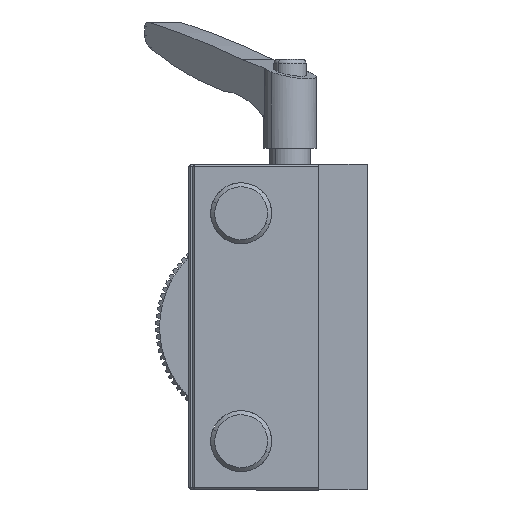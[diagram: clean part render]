
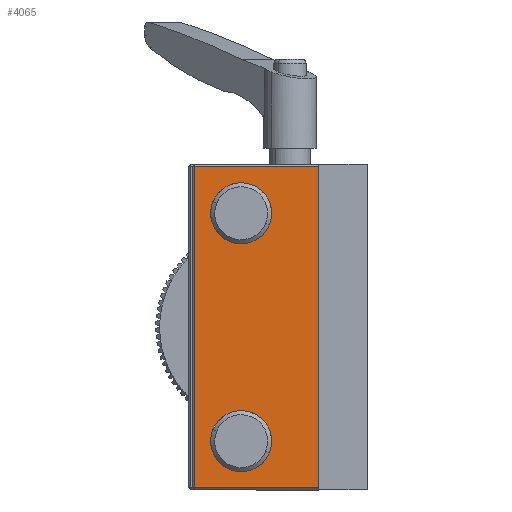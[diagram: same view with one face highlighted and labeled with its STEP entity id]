
A CAD part, left-side view. The second image highlights one B-rep face of the part: STEP entity #4065.
In plain terms, the highlighted planar face has unit normal (-1, 0, 0) as drawn and (0, 1, 0) by its records, which use the part's own axes.
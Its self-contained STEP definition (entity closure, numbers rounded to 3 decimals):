
#54 = VECTOR ( 'NONE', #14326, 1000. ) ;
#466 = AXIS2_PLACEMENT_3D ( 'NONE', #27640, #14416, #1186 ) ;
#862 = DIRECTION ( 'NONE',  ( 1., 0., 0. ) ) ;
#1071 = AXIS2_PLACEMENT_3D ( 'NONE', #21946, #8720, #24172 ) ;
#1186 = DIRECTION ( 'NONE',  ( 0., 0., 1. ) ) ;
#1552 = CIRCLE ( 'NONE', #466, 7.5 ) ;
#1697 = EDGE_CURVE ( 'NONE', #17717, #22943, #22184, .T. ) ;
#1748 = EDGE_LOOP ( 'NONE', ( #3451, #9469 ) ) ;
#1885 = DIRECTION ( 'NONE',  ( 0., 1., 0. ) ) ;
#2678 = CIRCLE ( 'NONE', #21205, 7.5 ) ;
#2783 = CARTESIAN_POINT ( 'NONE',  ( -28., 20., -4. ) ) ;
#3381 = CARTESIAN_POINT ( 'NONE',  ( -28., 20., 11. ) ) ;
#3451 = ORIENTED_EDGE ( 'NONE', *, *, #16008, .F. ) ;
#3814 = AXIS2_PLACEMENT_3D ( 'NONE', #22262, #24481, #11283 ) ;
#4065 = ADVANCED_FACE ( 'NONE', ( #8251, #4451, #25867 ), #6819, .T. ) ;
#4098 = ORIENTED_EDGE ( 'NONE', *, *, #14153, .F. ) ;
#4451 = FACE_BOUND ( 'NONE', #17967, .T. ) ;
#4594 = DIRECTION ( 'NONE',  ( 0., 0., 1. ) ) ;
#5362 = CARTESIAN_POINT ( 'NONE',  ( 28., 20., -4. ) ) ;
#5400 = ORIENTED_EDGE ( 'NONE', *, *, #21420, .T. ) ;
#5615 = DIRECTION ( 'NONE',  ( 0., 0., 1. ) ) ;
#6819 = PLANE ( 'NONE',  #3814 ) ;
#6948 = VERTEX_POINT ( 'NONE', #25490 ) ;
#7960 = VERTEX_POINT ( 'NONE', #11874 ) ;
#8251 = FACE_BOUND ( 'NONE', #1748, .T. ) ;
#8304 = CARTESIAN_POINT ( 'NONE',  ( 28., 20., 3.5 ) ) ;
#8357 = VECTOR ( 'NONE', #862, 1000. ) ;
#8720 = DIRECTION ( 'NONE',  ( 0., 1., 0. ) ) ;
#9469 = ORIENTED_EDGE ( 'NONE', *, *, #12879, .F. ) ;
#9692 = EDGE_LOOP ( 'NONE', ( #26869, #12488, #5400, #21804 ) ) ;
#9910 = ORIENTED_EDGE ( 'NONE', *, *, #1697, .F. ) ;
#10072 = CARTESIAN_POINT ( 'NONE',  ( -39.5, 20., 15.5 ) ) ;
#10314 = LINE ( 'NONE', #10072, #26517 ) ;
#10515 = EDGE_CURVE ( 'NONE', #28134, #14281, #10314, .T. ) ;
#10538 = DIRECTION ( 'NONE',  ( 0., 0., 1. ) ) ;
#11283 = DIRECTION ( 'NONE',  ( 0., 0., 1. ) ) ;
#11874 = CARTESIAN_POINT ( 'NONE',  ( 28., 20., 11. ) ) ;
#12488 = ORIENTED_EDGE ( 'NONE', *, *, #27114, .T. ) ;
#12879 = EDGE_CURVE ( 'NONE', #18750, #7960, #1552, .T. ) ;
#13497 = CIRCLE ( 'NONE', #1071, 7.5 ) ;
#14153 = EDGE_CURVE ( 'NONE', #22943, #17717, #13497, .T. ) ;
#14229 = LINE ( 'NONE', #16301, #8357 ) ;
#14281 = VERTEX_POINT ( 'NONE', #20339 ) ;
#14326 = DIRECTION ( 'NONE',  ( -1., 0., 0. ) ) ;
#14416 = DIRECTION ( 'NONE',  ( 0., 1., 0. ) ) ;
#16008 = EDGE_CURVE ( 'NONE', #7960, #18750, #2678, .T. ) ;
#16301 = CARTESIAN_POINT ( 'NONE',  ( 40., 20., 15. ) ) ;
#16714 = AXIS2_PLACEMENT_3D ( 'NONE', #20580, #1885, #4594 ) ;
#17717 = VERTEX_POINT ( 'NONE', #3381 ) ;
#17967 = EDGE_LOOP ( 'NONE', ( #9910, #4098 ) ) ;
#18368 = LINE ( 'NONE', #20872, #54 ) ;
#18750 = VERTEX_POINT ( 'NONE', #5362 ) ;
#18984 = CARTESIAN_POINT ( 'NONE',  ( -39.5, 20., -15.5 ) ) ;
#20339 = CARTESIAN_POINT ( 'NONE',  ( -39.5, 20., 15. ) ) ;
#20580 = CARTESIAN_POINT ( 'NONE',  ( -28., 20., 3.5 ) ) ;
#20872 = CARTESIAN_POINT ( 'NONE',  ( -40., 20., -15.5 ) ) ;
#21205 = AXIS2_PLACEMENT_3D ( 'NONE', #8304, #23761, #10538 ) ;
#21420 = EDGE_CURVE ( 'NONE', #6948, #28134, #18368, .T. ) ;
#21804 = ORIENTED_EDGE ( 'NONE', *, *, #10515, .T. ) ;
#21824 = DIRECTION ( 'NONE',  ( 0., 0., -1. ) ) ;
#21946 = CARTESIAN_POINT ( 'NONE',  ( -28., 20., 3.5 ) ) ;
#22184 = CIRCLE ( 'NONE', #16714, 7.5 ) ;
#22262 = CARTESIAN_POINT ( 'NONE',  ( 0., 20., 0. ) ) ;
#22943 = VERTEX_POINT ( 'NONE', #2783 ) ;
#23761 = DIRECTION ( 'NONE',  ( 0., 1., 0. ) ) ;
#24172 = DIRECTION ( 'NONE',  ( 0., 0., 1. ) ) ;
#24481 = DIRECTION ( 'NONE',  ( 0., 1., 0. ) ) ;
#25387 = CARTESIAN_POINT ( 'NONE',  ( 39.5, 20., 15. ) ) ;
#25490 = CARTESIAN_POINT ( 'NONE',  ( 39.5, 20., -15.5 ) ) ;
#25680 = VERTEX_POINT ( 'NONE', #25387 ) ;
#25867 = FACE_OUTER_BOUND ( 'NONE', #9692, .T. ) ;
#26329 = VECTOR ( 'NONE', #21824, 1000. ) ;
#26517 = VECTOR ( 'NONE', #5615, 1000. ) ;
#26869 = ORIENTED_EDGE ( 'NONE', *, *, #27464, .T. ) ;
#27114 = EDGE_CURVE ( 'NONE', #25680, #6948, #27732, .T. ) ;
#27464 = EDGE_CURVE ( 'NONE', #14281, #25680, #14229, .T. ) ;
#27640 = CARTESIAN_POINT ( 'NONE',  ( 28., 20., 3.5 ) ) ;
#27732 = LINE ( 'NONE', #28515, #26329 ) ;
#28134 = VERTEX_POINT ( 'NONE', #18984 ) ;
#28515 = CARTESIAN_POINT ( 'NONE',  ( 39.5, 20., -15.5 ) ) ;
